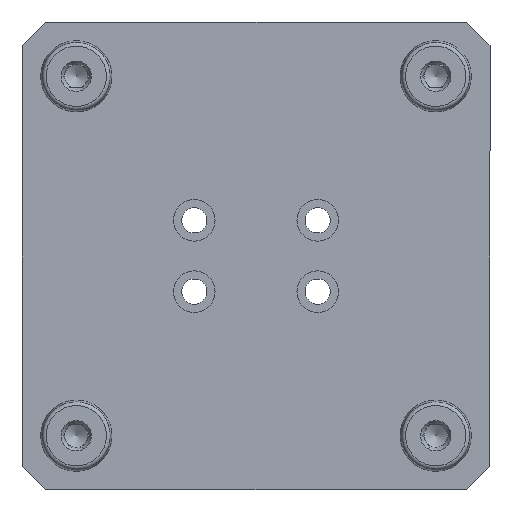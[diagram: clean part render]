
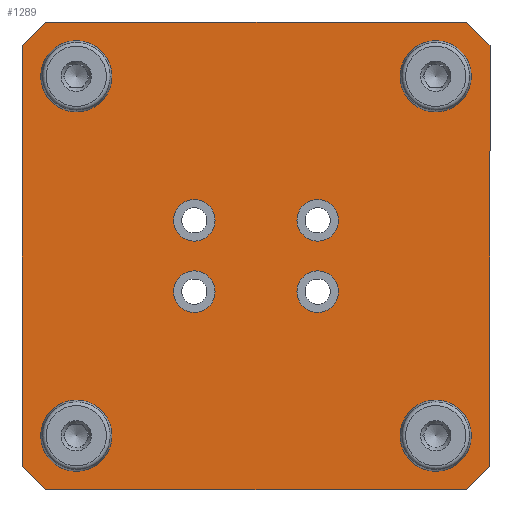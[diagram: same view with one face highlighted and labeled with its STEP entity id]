
A CAD part, front view. The second image highlights one B-rep face of the part: STEP entity #1289.
In plain terms, the highlighted planar face has unit normal (0, -1, 0).
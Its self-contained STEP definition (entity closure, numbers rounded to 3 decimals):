
#24 = VECTOR ( 'NONE', #2487, 1000. ) ;
#60 = ORIENTED_EDGE ( 'NONE', *, *, #2410, .F. ) ;
#69 = AXIS2_PLACEMENT_3D ( 'NONE', #238, #3163, #2043 ) ;
#105 = LINE ( 'NONE', #3171, #2356 ) ;
#118 = DIRECTION ( 'NONE',  ( 0., -1., 0. ) ) ;
#139 = FACE_BOUND ( 'NONE', #949, .T. ) ;
#171 = CARTESIAN_POINT ( 'NONE',  ( 48., 0., -48. ) ) ;
#173 = ORIENTED_EDGE ( 'NONE', *, *, #3802, .F. ) ;
#238 = CARTESIAN_POINT ( 'NONE',  ( -16.498, 0., -9.525 ) ) ;
#249 = DIRECTION ( 'NONE',  ( 0., 0., 1. ) ) ;
#287 = CARTESIAN_POINT ( 'NONE',  ( 48., 0., 56.01 ) ) ;
#315 = VERTEX_POINT ( 'NONE', #3884 ) ;
#334 = ORIENTED_EDGE ( 'NONE', *, *, #1294, .F. ) ;
#341 = CIRCLE ( 'NONE', #3111, 8.01 ) ;
#360 = VECTOR ( 'NONE', #2077, 1000. ) ;
#375 = DIRECTION ( 'NONE',  ( 0., 0., 1. ) ) ;
#443 = LINE ( 'NONE', #2852, #1965 ) ;
#469 = CIRCLE ( 'NONE', #3047, 5.556 ) ;
#542 = DIRECTION ( 'NONE',  ( 0., -1., 0. ) ) ;
#604 = DIRECTION ( 'NONE',  ( 0., -1., 0. ) ) ;
#608 = CARTESIAN_POINT ( 'NONE',  ( -56.15, 0., -62.5 ) ) ;
#623 = DIRECTION ( 'NONE',  ( 0., 0., 1. ) ) ;
#649 = ORIENTED_EDGE ( 'NONE', *, *, #2515, .F. ) ;
#696 = VERTEX_POINT ( 'NONE', #608 ) ;
#748 = FACE_OUTER_BOUND ( 'NONE', #1654, .T. ) ;
#753 = VERTEX_POINT ( 'NONE', #3832 ) ;
#756 = VERTEX_POINT ( 'NONE', #1545 ) ;
#802 = EDGE_LOOP ( 'NONE', ( #173 ) ) ;
#839 = CARTESIAN_POINT ( 'NONE',  ( 48., 0., -56.01 ) ) ;
#855 = ORIENTED_EDGE ( 'NONE', *, *, #1411, .T. ) ;
#941 = ORIENTED_EDGE ( 'NONE', *, *, #2878, .T. ) ;
#949 = EDGE_LOOP ( 'NONE', ( #1624 ) ) ;
#953 = CIRCLE ( 'NONE', #1960, 8.01 ) ;
#965 = CARTESIAN_POINT ( 'NONE',  ( 56.15, 0., -62.5 ) ) ;
#970 = CARTESIAN_POINT ( 'NONE',  ( 16.498, 0., -15.081 ) ) ;
#1021 = AXIS2_PLACEMENT_3D ( 'NONE', #171, #542, #3481 ) ;
#1054 = AXIS2_PLACEMENT_3D ( 'NONE', #3883, #1158, #249 ) ;
#1062 = CARTESIAN_POINT ( 'NONE',  ( 0., 0., 0. ) ) ;
#1099 = EDGE_LOOP ( 'NONE', ( #334 ) ) ;
#1130 = LINE ( 'NONE', #2299, #1719 ) ;
#1158 = DIRECTION ( 'NONE',  ( 0., -1., 0. ) ) ;
#1183 = AXIS2_PLACEMENT_3D ( 'NONE', #1062, #3156, #1681 ) ;
#1202 = CARTESIAN_POINT ( 'NONE',  ( 16.498, 0., -9.525 ) ) ;
#1206 = CARTESIAN_POINT ( 'NONE',  ( -62.5, 0., -62.5 ) ) ;
#1277 = VERTEX_POINT ( 'NONE', #3531 ) ;
#1289 = ADVANCED_FACE ( 'NONE', ( #1700, #3803, #139, #3120, #2526, #2231, #3433, #748, #2572 ), #3457, .F. ) ;
#1294 = EDGE_CURVE ( 'NONE', #2990, #2990, #3123, .T. ) ;
#1295 = CARTESIAN_POINT ( 'NONE',  ( -48., 0., -48. ) ) ;
#1316 = ORIENTED_EDGE ( 'NONE', *, *, #2365, .F. ) ;
#1366 = VERTEX_POINT ( 'NONE', #1771 ) ;
#1375 = VERTEX_POINT ( 'NONE', #1735 ) ;
#1411 = EDGE_CURVE ( 'NONE', #1277, #756, #3863, .T. ) ;
#1465 = VECTOR ( 'NONE', #623, 1000. ) ;
#1469 = DIRECTION ( 'NONE',  ( 0., 0., -1. ) ) ;
#1476 = EDGE_LOOP ( 'NONE', ( #2121 ) ) ;
#1516 = ORIENTED_EDGE ( 'NONE', *, *, #1977, .F. ) ;
#1545 = CARTESIAN_POINT ( 'NONE',  ( 56.15, 0., 62.5 ) ) ;
#1555 = CARTESIAN_POINT ( 'NONE',  ( -56.15, 0., 62.5 ) ) ;
#1624 = ORIENTED_EDGE ( 'NONE', *, *, #3329, .F. ) ;
#1652 = CIRCLE ( 'NONE', #1021, 8.01 ) ;
#1654 = EDGE_LOOP ( 'NONE', ( #3793, #2726, #649, #941, #2521, #2397, #3720, #855 ) ) ;
#1665 = DIRECTION ( 'NONE',  ( 0., -1., 0. ) ) ;
#1681 = DIRECTION ( 'NONE',  ( 0., 0., 1. ) ) ;
#1700 = FACE_BOUND ( 'NONE', #2717, .T. ) ;
#1719 = VECTOR ( 'NONE', #1469, 1000. ) ;
#1728 = EDGE_CURVE ( 'NONE', #753, #756, #105, .T. ) ;
#1735 = CARTESIAN_POINT ( 'NONE',  ( -62.5, 0., -56.15 ) ) ;
#1771 = CARTESIAN_POINT ( 'NONE',  ( -62.5, 0., 56.15 ) ) ;
#1788 = EDGE_LOOP ( 'NONE', ( #60 ) ) ;
#1813 = DIRECTION ( 'NONE',  ( 0., 0., -1. ) ) ;
#1920 = DIRECTION ( 'NONE',  ( 1., 0., 0. ) ) ;
#1946 = CARTESIAN_POINT ( 'NONE',  ( -48., 0., 48. ) ) ;
#1960 = AXIS2_PLACEMENT_3D ( 'NONE', #1946, #1665, #2775 ) ;
#1965 = VECTOR ( 'NONE', #2545, 1000. ) ;
#1977 = EDGE_CURVE ( 'NONE', #2970, #2970, #341, .T. ) ;
#2031 = CARTESIAN_POINT ( 'NONE',  ( -48., 0., 39.99 ) ) ;
#2043 = DIRECTION ( 'NONE',  ( 0., 0., -1. ) ) ;
#2049 = VERTEX_POINT ( 'NONE', #839 ) ;
#2062 = CARTESIAN_POINT ( 'NONE',  ( 56.15, 0., -62.5 ) ) ;
#2068 = AXIS2_PLACEMENT_3D ( 'NONE', #2617, #3495, #3823 ) ;
#2077 = DIRECTION ( 'NONE',  ( -0.707, 0., 0.707 ) ) ;
#2085 = CARTESIAN_POINT ( 'NONE',  ( -16.498, 0., 3.969 ) ) ;
#2121 = ORIENTED_EDGE ( 'NONE', *, *, #2640, .F. ) ;
#2123 = CIRCLE ( 'NONE', #2883, 5.556 ) ;
#2194 = ORIENTED_EDGE ( 'NONE', *, *, #3688, .F. ) ;
#2231 = FACE_BOUND ( 'NONE', #1788, .T. ) ;
#2238 = EDGE_LOOP ( 'NONE', ( #1316 ) ) ;
#2299 = CARTESIAN_POINT ( 'NONE',  ( 62.5, 0., -62.5 ) ) ;
#2344 = VERTEX_POINT ( 'NONE', #2031 ) ;
#2356 = VECTOR ( 'NONE', #1920, 1000. ) ;
#2363 = CARTESIAN_POINT ( 'NONE',  ( -16.498, 0., -15.081 ) ) ;
#2365 = EDGE_CURVE ( 'NONE', #2906, #2906, #2644, .T. ) ;
#2396 = DIRECTION ( 'NONE',  ( 0.707, 0., 0.707 ) ) ;
#2397 = ORIENTED_EDGE ( 'NONE', *, *, #2529, .T. ) ;
#2410 = EDGE_CURVE ( 'NONE', #2049, #2049, #1652, .T. ) ;
#2422 = LINE ( 'NONE', #1555, #24 ) ;
#2450 = EDGE_CURVE ( 'NONE', #1277, #315, #1130, .T. ) ;
#2487 = DIRECTION ( 'NONE',  ( -0.707, 0., -0.707 ) ) ;
#2492 = CARTESIAN_POINT ( 'NONE',  ( -62.5, 0., -56.15 ) ) ;
#2515 = EDGE_CURVE ( 'NONE', #1375, #1366, #2716, .T. ) ;
#2521 = ORIENTED_EDGE ( 'NONE', *, *, #3118, .F. ) ;
#2526 = FACE_BOUND ( 'NONE', #3089, .T. ) ;
#2529 = EDGE_CURVE ( 'NONE', #3506, #315, #2737, .T. ) ;
#2545 = DIRECTION ( 'NONE',  ( -1., 0., 0. ) ) ;
#2572 = FACE_BOUND ( 'NONE', #802, .T. ) ;
#2617 = CARTESIAN_POINT ( 'NONE',  ( -16.498, 0., 9.525 ) ) ;
#2640 = EDGE_CURVE ( 'NONE', #2344, #2344, #953, .T. ) ;
#2644 = CIRCLE ( 'NONE', #69, 5.556 ) ;
#2662 = VERTEX_POINT ( 'NONE', #3852 ) ;
#2716 = LINE ( 'NONE', #1206, #1465 ) ;
#2717 = EDGE_LOOP ( 'NONE', ( #2194 ) ) ;
#2726 = ORIENTED_EDGE ( 'NONE', *, *, #3345, .T. ) ;
#2737 = LINE ( 'NONE', #2062, #3396 ) ;
#2775 = DIRECTION ( 'NONE',  ( 0., 0., -1. ) ) ;
#2852 = CARTESIAN_POINT ( 'NONE',  ( -62.5, 0., -62.5 ) ) ;
#2878 = EDGE_CURVE ( 'NONE', #1375, #696, #3250, .T. ) ;
#2883 = AXIS2_PLACEMENT_3D ( 'NONE', #1202, #604, #1813 ) ;
#2906 = VERTEX_POINT ( 'NONE', #2363 ) ;
#2970 = VERTEX_POINT ( 'NONE', #3567 ) ;
#2990 = VERTEX_POINT ( 'NONE', #287 ) ;
#3047 = AXIS2_PLACEMENT_3D ( 'NONE', #3115, #118, #3641 ) ;
#3089 = EDGE_LOOP ( 'NONE', ( #1516 ) ) ;
#3103 = DIRECTION ( 'NONE',  ( 0.707, 0., -0.707 ) ) ;
#3111 = AXIS2_PLACEMENT_3D ( 'NONE', #1295, #3698, #375 ) ;
#3115 = CARTESIAN_POINT ( 'NONE',  ( 16.498, 0., 9.525 ) ) ;
#3118 = EDGE_CURVE ( 'NONE', #3506, #696, #443, .T. ) ;
#3120 = FACE_BOUND ( 'NONE', #1099, .T. ) ;
#3123 = CIRCLE ( 'NONE', #1054, 8.01 ) ;
#3156 = DIRECTION ( 'NONE',  ( 0., 1., 0. ) ) ;
#3163 = DIRECTION ( 'NONE',  ( 0., -1., 0. ) ) ;
#3171 = CARTESIAN_POINT ( 'NONE',  ( -62.5, 0., 62.5 ) ) ;
#3250 = LINE ( 'NONE', #2492, #3586 ) ;
#3299 = VERTEX_POINT ( 'NONE', #2085 ) ;
#3329 = EDGE_CURVE ( 'NONE', #2662, #2662, #469, .T. ) ;
#3345 = EDGE_CURVE ( 'NONE', #753, #1366, #2422, .T. ) ;
#3396 = VECTOR ( 'NONE', #2396, 1000. ) ;
#3433 = FACE_BOUND ( 'NONE', #1476, .T. ) ;
#3450 = CIRCLE ( 'NONE', #2068, 5.556 ) ;
#3457 = PLANE ( 'NONE',  #1183 ) ;
#3464 = VERTEX_POINT ( 'NONE', #970 ) ;
#3481 = DIRECTION ( 'NONE',  ( 0., 0., -1. ) ) ;
#3495 = DIRECTION ( 'NONE',  ( 0., -1., 0. ) ) ;
#3506 = VERTEX_POINT ( 'NONE', #965 ) ;
#3531 = CARTESIAN_POINT ( 'NONE',  ( 62.5, 0., 56.15 ) ) ;
#3567 = CARTESIAN_POINT ( 'NONE',  ( -48., 0., -39.99 ) ) ;
#3568 = CARTESIAN_POINT ( 'NONE',  ( 62.5, 0., 56.15 ) ) ;
#3586 = VECTOR ( 'NONE', #3103, 1000. ) ;
#3641 = DIRECTION ( 'NONE',  ( 0., 0., -1. ) ) ;
#3688 = EDGE_CURVE ( 'NONE', #3299, #3299, #3450, .T. ) ;
#3698 = DIRECTION ( 'NONE',  ( 0., -1., 0. ) ) ;
#3720 = ORIENTED_EDGE ( 'NONE', *, *, #2450, .F. ) ;
#3793 = ORIENTED_EDGE ( 'NONE', *, *, #1728, .F. ) ;
#3802 = EDGE_CURVE ( 'NONE', #3464, #3464, #2123, .T. ) ;
#3803 = FACE_BOUND ( 'NONE', #2238, .T. ) ;
#3823 = DIRECTION ( 'NONE',  ( 0., 0., -1. ) ) ;
#3832 = CARTESIAN_POINT ( 'NONE',  ( -56.15, 0., 62.5 ) ) ;
#3852 = CARTESIAN_POINT ( 'NONE',  ( 16.498, 0., 3.969 ) ) ;
#3863 = LINE ( 'NONE', #3568, #360 ) ;
#3883 = CARTESIAN_POINT ( 'NONE',  ( 48., 0., 48. ) ) ;
#3884 = CARTESIAN_POINT ( 'NONE',  ( 62.5, 0., -56.15 ) ) ;
